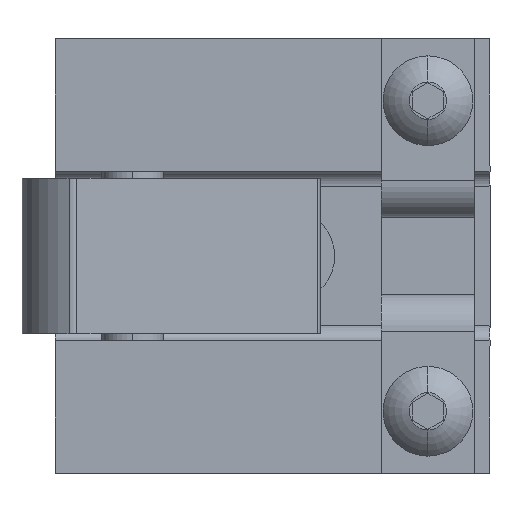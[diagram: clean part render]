
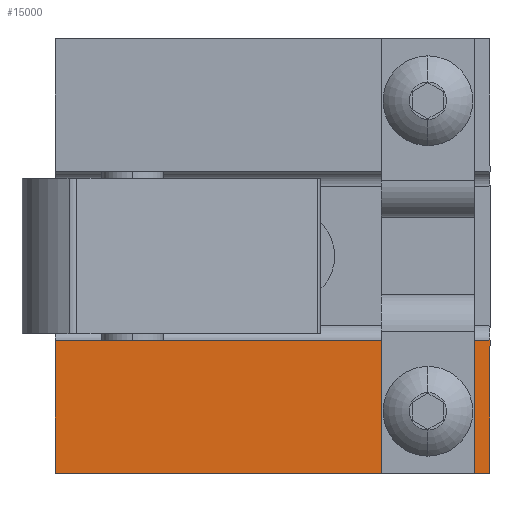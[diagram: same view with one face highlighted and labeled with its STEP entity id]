
A CAD part, left-side view. The second image highlights one B-rep face of the part: STEP entity #15000.
In plain terms, the highlighted planar face has unit normal (-1, 0, 0).
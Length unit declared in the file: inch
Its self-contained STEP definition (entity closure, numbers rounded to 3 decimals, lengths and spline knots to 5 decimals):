
#3649 = CIRCLE ( 'NONE', #3919, 0.09375 ) ;
#3918 = CARTESIAN_POINT ( 'NONE',  ( 7.4273, 3.84026, -1.5 ) ) ;
#3919 = AXIS2_PLACEMENT_3D ( 'NONE', #3918, #4239, #4238 ) ;
#4172 = CARTESIAN_POINT ( 'NONE',  ( 7.4273, 5.34026, -1.215 ) ) ;
#4179 = CARTESIAN_POINT ( 'NONE',  ( 7.4273, 3.84026, -1.59375 ) ) ;
#4237 = CARTESIAN_POINT ( 'NONE',  ( 7.4273, 3.84026, -1.40625 ) ) ;
#4238 = DIRECTION ( 'NONE',  ( 0., 0., 1. ) ) ;
#4239 = DIRECTION ( 'NONE',  ( -1., 0., 0. ) ) ;
#4326 = DIRECTION ( 'NONE',  ( 0., 0., 1. ) ) ;
#4327 = VECTOR ( 'NONE', #4326, 39.37008 ) ;
#4328 = CARTESIAN_POINT ( 'NONE',  ( 7.4273, 5.34026, -1.75 ) ) ;
#4329 = LINE ( 'NONE', #4328, #4327 ) ;
#4330 = CARTESIAN_POINT ( 'NONE',  ( 7.4273, 5.34026, -1.75 ) ) ;
#4405 = CARTESIAN_POINT ( 'NONE',  ( 7.4273, 3.59026, -1.215 ) ) ;
#4406 = DIRECTION ( 'NONE',  ( 0., -1., 0. ) ) ;
#4407 = VECTOR ( 'NONE', #4406, 39.37008 ) ;
#4408 = CARTESIAN_POINT ( 'NONE',  ( 7.4273, 3.59026, -1.215 ) ) ;
#4409 = DIRECTION ( 'NONE',  ( 0., 0., 1. ) ) ;
#4410 = DIRECTION ( 'NONE',  ( -1., 0., 0. ) ) ;
#4411 = CARTESIAN_POINT ( 'NONE',  ( 7.4273, 3.59026, -1.75 ) ) ;
#4412 = LINE ( 'NONE', #4408, #4407 ) ;
#4413 = AXIS2_PLACEMENT_3D ( 'NONE', #4411, #4410, #4409 ) ;
#4414 = PLANE ( 'NONE',  #4413 ) ;
#4415 = FACE_BOUND ( 'NONE', #15247, .T. ) ;
#4416 = FACE_OUTER_BOUND ( 'NONE', #14986, .T. ) ;
#4683 = DIRECTION ( 'NONE',  ( 0., -1., 0. ) ) ;
#4684 = VECTOR ( 'NONE', #4683, 39.37008 ) ;
#4685 = CARTESIAN_POINT ( 'NONE',  ( 7.4273, 3.59026, -1.75 ) ) ;
#4686 = LINE ( 'NONE', #4685, #4684 ) ;
#4694 = CARTESIAN_POINT ( 'NONE',  ( 7.4273, 3.59026, -1.75 ) ) ;
#4695 = DIRECTION ( 'NONE',  ( 0., 0., 1. ) ) ;
#4696 = VECTOR ( 'NONE', #4695, 39.37008 ) ;
#4697 = CARTESIAN_POINT ( 'NONE',  ( 7.4273, 3.59026, -1.75 ) ) ;
#4698 = LINE ( 'NONE', #4697, #4696 ) ;
#4987 = DIRECTION ( 'NONE',  ( 0., 0., 1. ) ) ;
#4988 = DIRECTION ( 'NONE',  ( -1., 0., 0. ) ) ;
#4989 = CARTESIAN_POINT ( 'NONE',  ( 7.4273, 3.84026, -1.5 ) ) ;
#4990 = AXIS2_PLACEMENT_3D ( 'NONE', #4989, #4988, #4987 ) ;
#4991 = CIRCLE ( 'NONE', #4990, 0.09375 ) ;
#14758 = VERTEX_POINT ( 'NONE', #4172 ) ;
#14808 = VERTEX_POINT ( 'NONE', #4179 ) ;
#14811 = EDGE_CURVE ( 'NONE', #14808, #14813, #3649, .T. ) ;
#14813 = VERTEX_POINT ( 'NONE', #4237 ) ;
#14891 = VERTEX_POINT ( 'NONE', #4330 ) ;
#14892 = EDGE_CURVE ( 'NONE', #14891, #14758, #4329, .T. ) ;
#14986 = EDGE_LOOP ( 'NONE', ( #15002, #15197, #15371, #15465 ) ) ;
#15000 = ADVANCED_FACE ( 'NONE', ( #4416, #4415 ), #4414, .T. ) ;
#15002 = ORIENTED_EDGE ( 'NONE', *, *, #15004, .F. ) ;
#15004 = EDGE_CURVE ( 'NONE', #14758, #15006, #4412, .T. ) ;
#15006 = VERTEX_POINT ( 'NONE', #4405 ) ;
#15197 = ORIENTED_EDGE ( 'NONE', *, *, #14892, .F. ) ;
#15245 = EDGE_CURVE ( 'NONE', #14891, #15321, #4686, .T. ) ;
#15247 = EDGE_LOOP ( 'NONE', ( #15445, #15449 ) ) ;
#15315 = EDGE_CURVE ( 'NONE', #15321, #15006, #4698, .T. ) ;
#15321 = VERTEX_POINT ( 'NONE', #4694 ) ;
#15371 = ORIENTED_EDGE ( 'NONE', *, *, #15245, .T. ) ;
#15445 = ORIENTED_EDGE ( 'NONE', *, *, #15447, .F. ) ;
#15447 = EDGE_CURVE ( 'NONE', #14813, #14808, #4991, .T. ) ;
#15449 = ORIENTED_EDGE ( 'NONE', *, *, #14811, .F. ) ;
#15465 = ORIENTED_EDGE ( 'NONE', *, *, #15315, .T. ) ;
